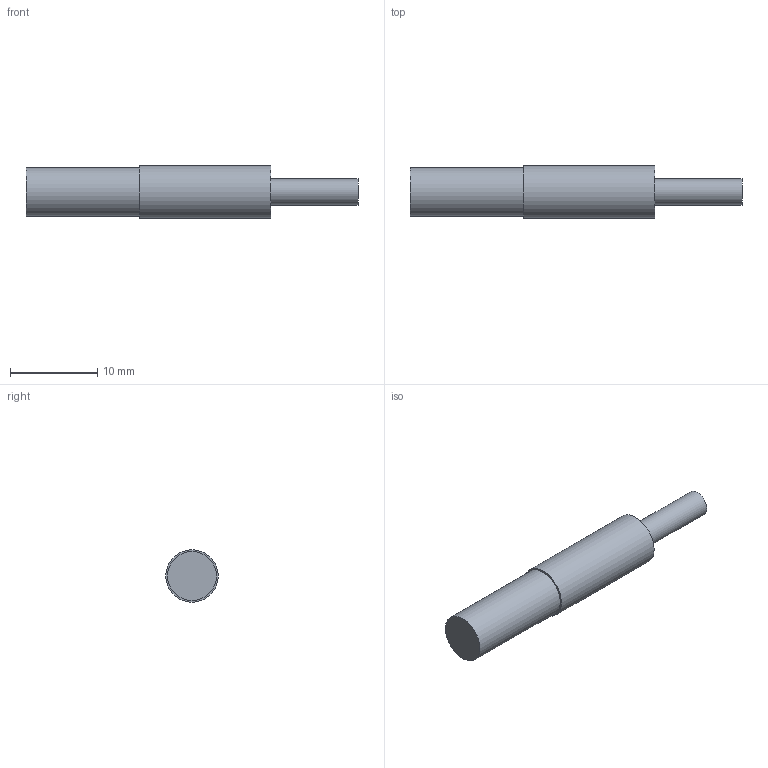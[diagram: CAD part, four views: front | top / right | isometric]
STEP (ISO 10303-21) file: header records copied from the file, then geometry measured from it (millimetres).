
FILE_DESCRIPTION(/* description */ ('STEP AP203'),/* implementation_level */ '2;1');
FILE_NAME(/* name */ 'P_MZ_FO_0090',/* time_stamp */ '2023-03-03T13:31:55+01:00',/* author */ ('License CC BY-ND 4.0'),/* organization */ ('CADENAS'),/* preprocessor_version */ 'ST-DEVELOPER v18.102',/* originating_system */ 'PARTsolutions',/* authorisation */ ' ');
FILE_SCHEMA (('CONFIG_CONTROL_DESIGN'));
Length unit declared in the file: millimetre
Products named in the file (1): P_MZ_FO_0090
Bounding box: 38 x 6 x 6 mm (x, y, z)
Volume: 815 mm3; surface area: 662.2 mm2
Topology: 1 solids, 1 shells, 7 faces, 9 edges, 6 vertices
Faces by surface type: plane 4, cylinder 3
Full cylindrical faces by diameter (mm): 3 x1, 5.6 x1, 6 x1
Entity records: 207 total; most frequent: DIRECTION 28, CARTESIAN_POINT 20, AXIS2_PLACEMENT_3D 14, ORIENTED_EDGE 12, EDGE_LOOP 12, FACE_BOUND 12, STYLED_ITEM 7, PRESENTATION_STYLE_ASSIGNMENT 7
